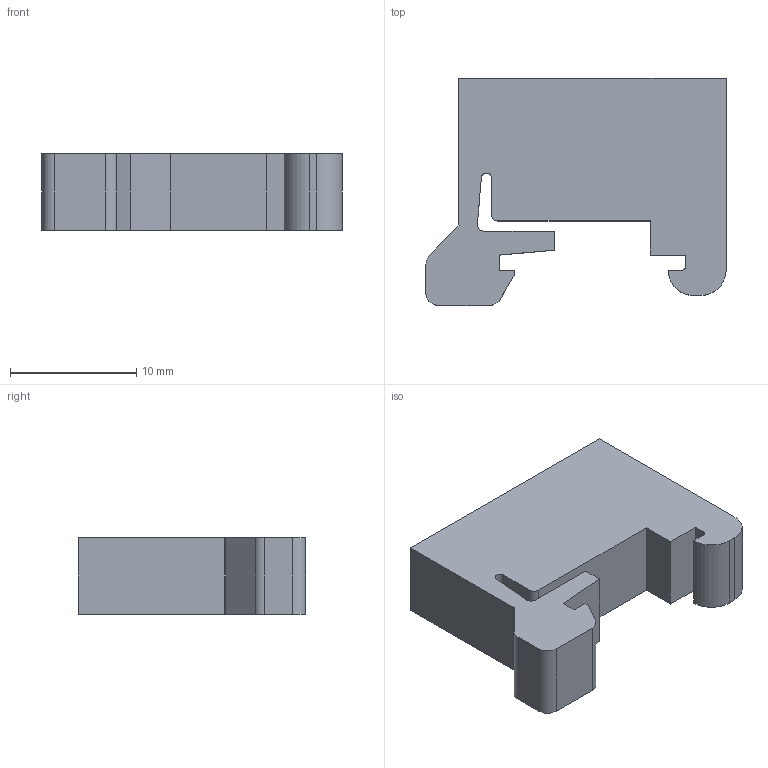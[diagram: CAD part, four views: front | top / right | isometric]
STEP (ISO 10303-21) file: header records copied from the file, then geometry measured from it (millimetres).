
FILE_DESCRIPTION(('OneSpaceDesigner STEP Export'),'2;1');
FILE_NAME('1421659_e_mk1_select.stp','2005-11-08T13:57:02',(''),(''),'OneSpace Designer STEP processor for AP203 (Solid Model)','OneSpace Designer 13.01 05-Feb-2005 (C) CoCreate Software GmbH','');
FILE_SCHEMA(('CONFIG_CONTROL_DESIGN'));
Length unit declared in the file: millimetre
Products named in the file (2): 1421659_e_mk1_select
Assembly tree (1 placements, depth 2):
  1421659_e_mk1_select
    1421659_e_mk1_select
Bounding box: 23.8 x 18 x 6.05 mm (x, y, z)
Volume: 1708.5 mm3; surface area: 1424.7 mm2
Topology: 1 solids, 1 shells, 43 faces, 114 edges, 76 vertices
Faces by surface type: plane 27, cylinder 16
Entity records: 1502 total; most frequent: ORIENTED_EDGE 228, CARTESIAN_POINT 223, DIRECTION 212, EDGE_CURVE 114, VECTOR 82, LINE 82, VERTEX_POINT 76, AXIS2_PLACEMENT_3D 65
